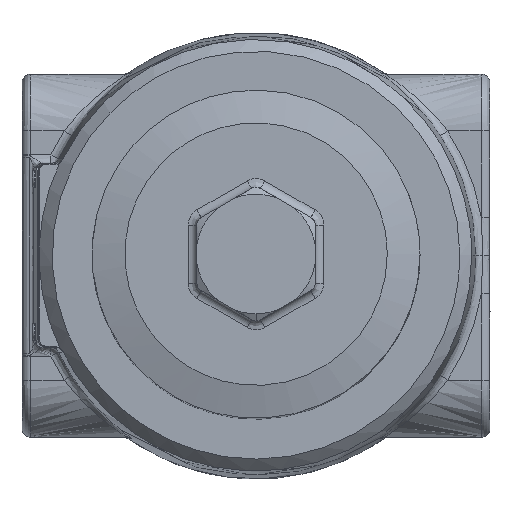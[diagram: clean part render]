
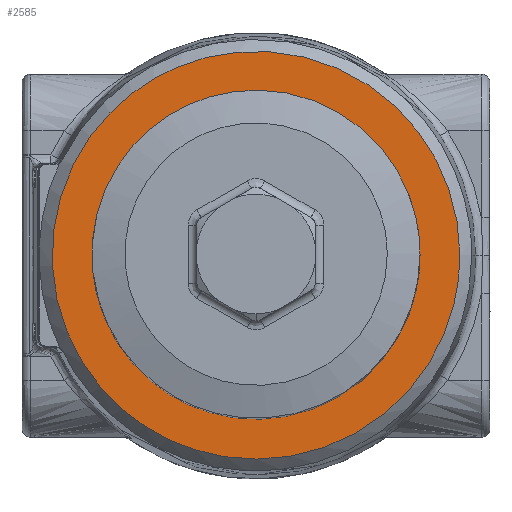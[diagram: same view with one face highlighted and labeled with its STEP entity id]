
A CAD part, top view. The second image highlights one B-rep face of the part: STEP entity #2585.
In plain terms, the highlighted free-form (B-spline) face has degree [1, 1] with [2, 2] control points.
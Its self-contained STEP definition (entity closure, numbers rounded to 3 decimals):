
#2527=CARTESIAN_POINT('V15',(29.867,-3.957,
   66.0));
#2528=VERTEX_POINT('V15',#2527);
#2529=CARTESIAN_POINT('E24',(29.867,-3.957,
   66.0));
#2530=CARTESIAN_POINT('E24',(29.867,60.995,
   66.0));
#2531=CARTESIAN_POINT('E24',(-26.383,28.519,
   66.0));
#2532=CARTESIAN_POINT('E24',(-82.633,-3.957,
   66.0));
#2533=CARTESIAN_POINT('E24',(-26.383,-36.433,
   66.0));
#2534=CARTESIAN_POINT('E24',(29.867,-68.909,
   66.0));
#2535=CARTESIAN_POINT('E24',(29.867,-3.957,
   66.0));
#2543=(BOUNDED_CURVE()B_SPLINE_CURVE(2,(#2529,#2530,#2531,#2532,
   #2533,#2534,#2535),.CIRCULAR_ARC.,.T.,.U.)
   B_SPLINE_CURVE_WITH_KNOTS((3,2,2,3),(0.0,0.333,
   0.667,1.0),.UNSPECIFIED.)CURVE()
   GEOMETRIC_REPRESENTATION_ITEM()RATIONAL_B_SPLINE_CURVE((1.0,
   0.5,1.0,0.5,1.0,0.5,1.0)
   )REPRESENTATION_ITEM('E24'));
#2544=EDGE_CURVE('E24',#2528,#2528,#2543,.T.);
#2556=CARTESIAN_POINT('F15',(-58.908,47.318,
   66.0));
#2557=CARTESIAN_POINT('F15',(43.642,47.318,
   66.0));
#2558=CARTESIAN_POINT('F15',(-58.908,-55.232,
   66.0));
#2559=CARTESIAN_POINT('F15',(43.642,-55.232,
   66.0));
#2560=QUASI_UNIFORM_SURFACE('F15',1,1,((#2556,#2558),(#2557,#2559))
,.PLANE_SURF.,.F.,.F.,.U.);
#2561=CARTESIAN_POINT('V17',(38.98,-3.957,
   66.0));
#2562=VERTEX_POINT('V17',#2561);
#2563=CARTESIAN_POINT('E27',(38.98,-3.957,
   66.0));
#2564=CARTESIAN_POINT('E27',(38.98,76.78,
   66.0));
#2565=CARTESIAN_POINT('E27',(-30.94,36.411,
   66.0));
#2566=CARTESIAN_POINT('E27',(-100.86,-3.957,
   66.0));
#2567=CARTESIAN_POINT('E27',(-30.94,-44.325,
   66.0));
#2568=CARTESIAN_POINT('E27',(38.98,-84.694,
   66.0));
#2569=CARTESIAN_POINT('E27',(38.98,-3.957,
   66.0));
#2577=(BOUNDED_CURVE()B_SPLINE_CURVE(2,(#2563,#2564,#2565,#2566,
   #2567,#2568,#2569),.CIRCULAR_ARC.,.T.,.U.)
   B_SPLINE_CURVE_WITH_KNOTS((3,2,2,3),(0.0,39.284,
   78.569,117.853),.UNSPECIFIED.)CURVE()
   GEOMETRIC_REPRESENTATION_ITEM()RATIONAL_B_SPLINE_CURVE((1.0,
   0.5,1.0,0.5,1.0,0.5,1.0)
   )REPRESENTATION_ITEM('E27'));
#2578=EDGE_CURVE('E27',#2562,#2562,#2577,.T.);
#2579=ORIENTED_EDGE('E27',*,*,#2578,.T.);
#2580=EDGE_LOOP('F15',(#2579));
#2581=FACE_OUTER_BOUND('F15',#2580,.T.);
#2582=ORIENTED_EDGE('E24',*,*,#2544,.F.);
#2583=EDGE_LOOP('F15',(#2582));
#2584=FACE_BOUND('F15',#2583,.T.);
#2585=ADVANCED_FACE('F15',(#2581,#2584),#2560,.F.);
